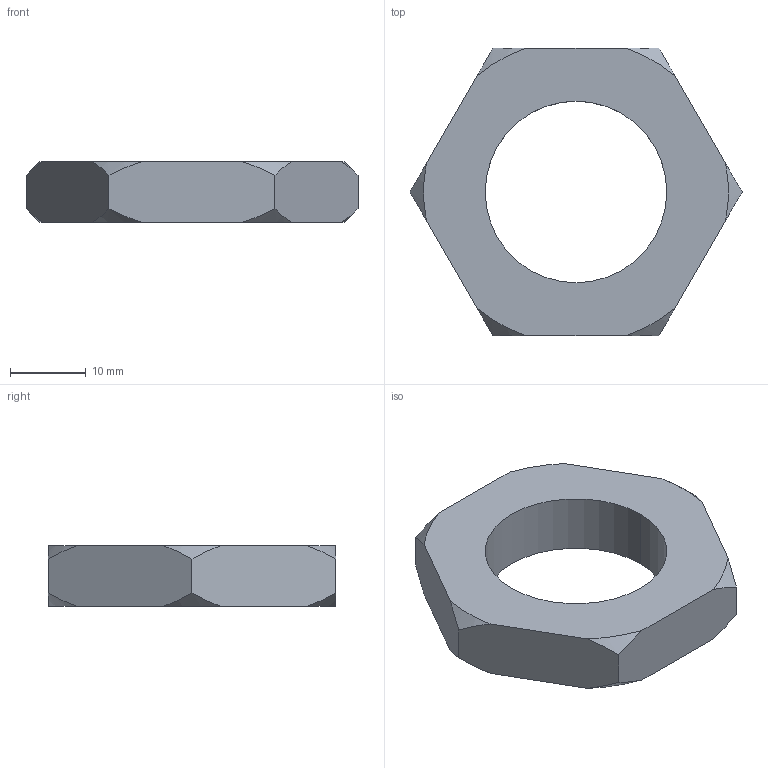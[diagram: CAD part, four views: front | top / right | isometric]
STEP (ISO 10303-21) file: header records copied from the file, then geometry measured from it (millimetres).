
FILE_DESCRIPTION(('CATIA V5 STEP Exchange'),'2;1');
FILE_NAME('W:\LIBRERIA TECAPRES®\DIBUJOS STRACK 2012\BRIDAS\FR\FR 24.stp','2013-04-09T06:41:13+00:00',('none'),('none'),'CATIA Version 5 Release 17 (IN-10)','CATIA V5 STEP AP203','none');
FILE_SCHEMA(('CONFIG_CONTROL_DESIGN'));
Length unit declared in the file: millimetre
Products named in the file (1): C:\Documents and Settings\Luisg\Mis documentos\Dibujos catálogo 2009\MICRO25x25
Bounding box: 43.88 x 38 x 8 mm (x, y, z)
Volume: 6343.3 mm3; surface area: 3198.2 mm2
Topology: 1 solids, 1 shells, 22 faces, 60 edges, 40 vertices
Faces by surface type: revolution 12, plane 8, cylinder 2
Entity records: 917 total; most frequent: CARTESIAN_POINT 386, ORIENTED_EDGE 120, EDGE_CURVE 60, DIRECTION 54, B_SPLINE_CURVE_WITH_KNOTS 48, VERTEX_POINT 40, EDGE_LOOP 24, ADVANCED_FACE 22
